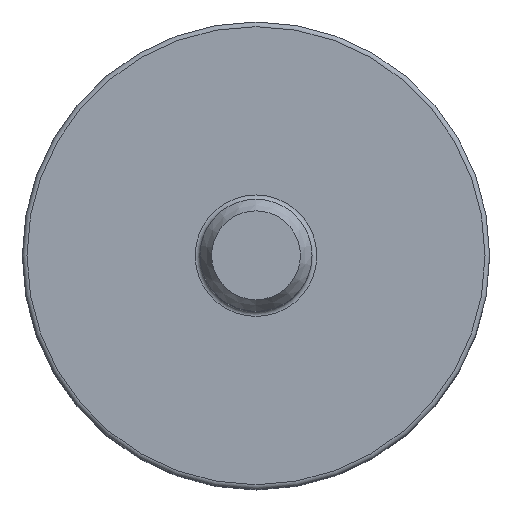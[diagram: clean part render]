
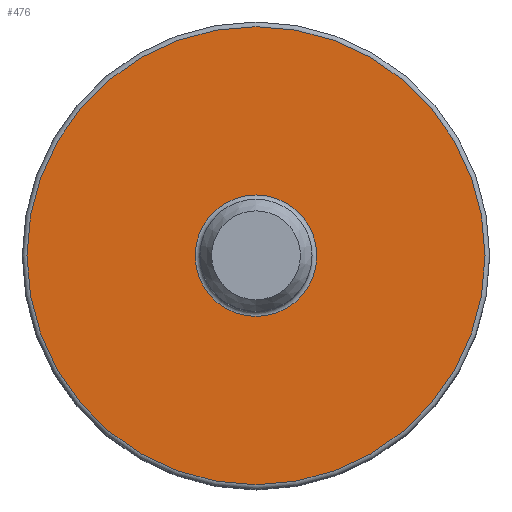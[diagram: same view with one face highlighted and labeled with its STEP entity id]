
A CAD part, top view. The second image highlights one B-rep face of the part: STEP entity #476.
In plain terms, the highlighted planar face has unit normal (0, 0, 1).
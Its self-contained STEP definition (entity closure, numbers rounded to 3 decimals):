
#34=PLANE('',#540);
#88=FACE_BOUND('',#187,.T.);
#132=FACE_OUTER_BOUND('',#186,.T.);
#186=EDGE_LOOP('',(#402));
#187=EDGE_LOOP('',(#403));
#222=CIRCLE('',#539,49.);
#223=CIRCLE('',#541,13.);
#262=VERTEX_POINT('',#807);
#263=VERTEX_POINT('',#810);
#310=EDGE_CURVE('',#262,#262,#222,.T.);
#311=EDGE_CURVE('',#263,#263,#223,.T.);
#402=ORIENTED_EDGE('',*,*,#310,.T.);
#403=ORIENTED_EDGE('',*,*,#311,.F.);
#476=ADVANCED_FACE('',(#132,#88),#34,.T.);
#539=AXIS2_PLACEMENT_3D('',#808,#679,#680);
#540=AXIS2_PLACEMENT_3D('',#809,#681,#682);
#541=AXIS2_PLACEMENT_3D('',#811,#683,#684);
#679=DIRECTION('center_axis',(0.,0.,1.));
#680=DIRECTION('ref_axis',(0.,-1.,0.));
#681=DIRECTION('center_axis',(0.,0.,1.));
#682=DIRECTION('ref_axis',(1.,0.,0.));
#683=DIRECTION('center_axis',(0.,0.,1.));
#684=DIRECTION('ref_axis',(0.,-1.,0.));
#807=CARTESIAN_POINT('',(0.,-49.,0.));
#808=CARTESIAN_POINT('Origin',(0.,0.,0.));
#809=CARTESIAN_POINT('Origin',(0.,-31.,0.));
#810=CARTESIAN_POINT('',(0.,-13.,0.));
#811=CARTESIAN_POINT('Origin',(0.,0.,0.));
